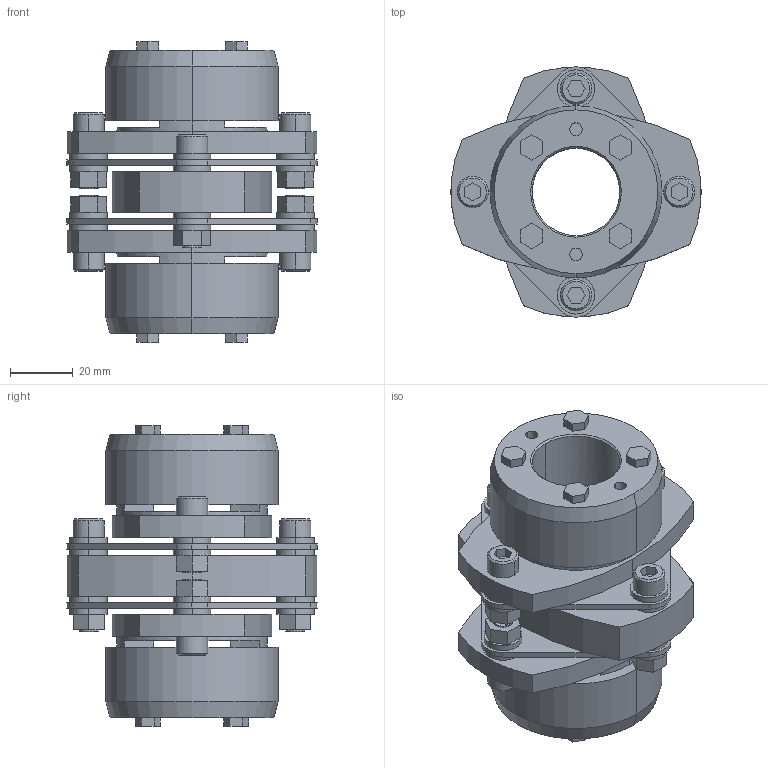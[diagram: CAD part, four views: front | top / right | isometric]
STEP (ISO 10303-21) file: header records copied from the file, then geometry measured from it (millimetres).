
FILE_DESCRIPTION((''),'2;1');
FILE_NAME('LCD-80T7-28×28.stp','2011-09-15T15:54:37',(''),(''),'AutoCAD STEP 2000i','AutoCAD 2000i',', , ');
FILE_SCHEMA(('CONFIG_CONTROL_DESIGN'));
Length unit declared in the file: millimetre
Products named in the file (11): LCD-80T7-28×28; 忣兜1; LC80T7-T028-1; LC80T7-T028; LC80T7-T024; LC80T7-T022; LC80T7-T019-1; LC80T7-T019; LC80T7-T017-1; LC80T7-T017; LCD80-ITA
Assembly tree (10 placements, depth 2):
  LCD-80T7-28×28
    忣兜1
    LC80T7-T028-1
    LC80T7-T028
    LC80T7-T024
    LC80T7-T022
    LC80T7-T019-1
    LC80T7-T019
    LC80T7-T017-1
    LC80T7-T017
    LCD80-ITA
Bounding box: 80 x 79.95 x 96.1 mm (x, y, z)
Volume: 173145.8 mm3; surface area: 57190.4 mm2
Topology: 1 solids, 1 shells, 334 faces, 816 edges, 536 vertices
Faces by surface type: plane 190, cylinder 120, cone 24
Entity records: 10135 total; most frequent: DIRECTION 1786, CARTESIAN_POINT 1697, ORIENTED_EDGE 1632, EDGE_CURVE 816, AXIS2_PLACEMENT_3D 625, VERTEX_POINT 536, VECTOR 536, LINE 536
